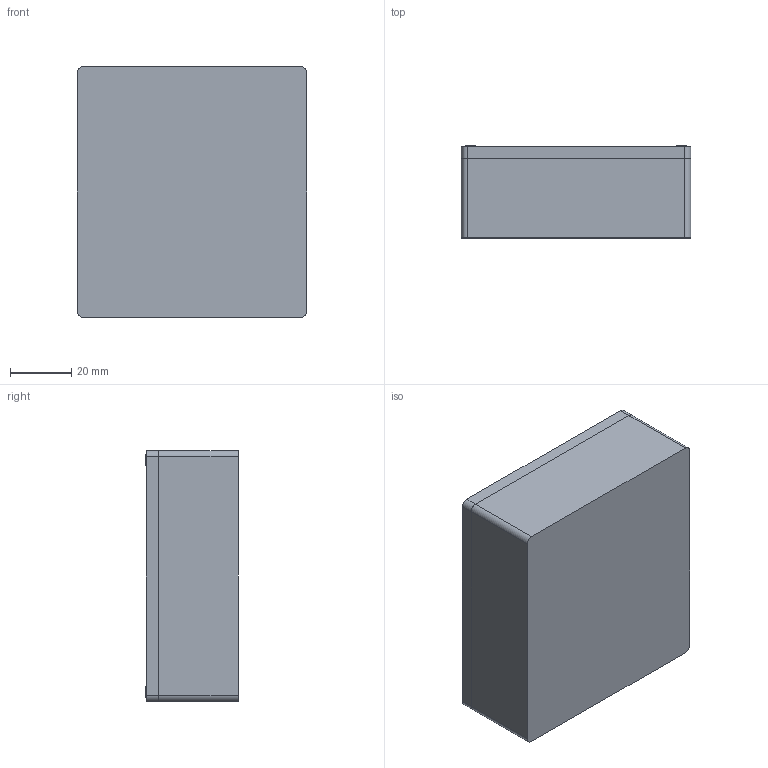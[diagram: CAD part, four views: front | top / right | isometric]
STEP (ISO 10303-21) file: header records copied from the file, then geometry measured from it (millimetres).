
FILE_DESCRIPTION(/* description */ (''),/* implementation_level */ '2;1');
FILE_NAME(/* name */ 'Assieme_voice_relay.stp',/* time_stamp */ '2025-03-07T18:52:10+01:00',/* author */ ('R5800u'),/* organization */ (''),/* preprocessor_version */ 'ST-DEVELOPER v20',/* originating_system */ 'Autodesk Inventor 2025',/* authorisation */ '');
FILE_SCHEMA (('AUTOMOTIVE_DESIGN { 1 0 10303 214 3 1 1 }'));
Products named in the file (7): Assieme_voice_relay; M5stack_ASR_unit; RelayBoard; M5 ATOM Lite; scatola_voice; tappo; IFI 513 - M2x0,4 x 10, CRFCHMSTIM
Assembly tree (9 placements, depth 2):
  Assieme_voice_relay
    M5stack_ASR_unit
    RelayBoard
    M5 ATOM Lite
    scatola_voice
    tappo
    IFI 513 - M2x0,4 x 10, CRFCHMSTIM  x4
Bounding box: 75 x 30.2 x 82 mm (x, y, z)
Volume: 107928.2 mm3; surface area: 61942.1 mm2
Topology: 91 solids, 91 shells, 3531 faces, 8672 edges, 5369 vertices
Faces by surface type: plane 2142, cylinder 756, bspline 365, torus 152, cone 74, sphere 42
Full cylindrical faces by diameter (mm): 0.5 x2, 0.6 x10, 1 x2, 1.016 x6, 1.021 x4, 1.623 x1, 2 x16, 3.175 x4, 3.4 x6, 3.5 x10, 4.6 x2, 4.8 x2
Entity records: 105381 total; most frequent: CARTESIAN_POINT 24853, ORIENTED_EDGE 16544, DIRECTION 16188, EDGE_CURVE 8272, LINE 5640, VECTOR 5640, AXIS2_PLACEMENT_3D 5274, VERTEX_POINT 5163
